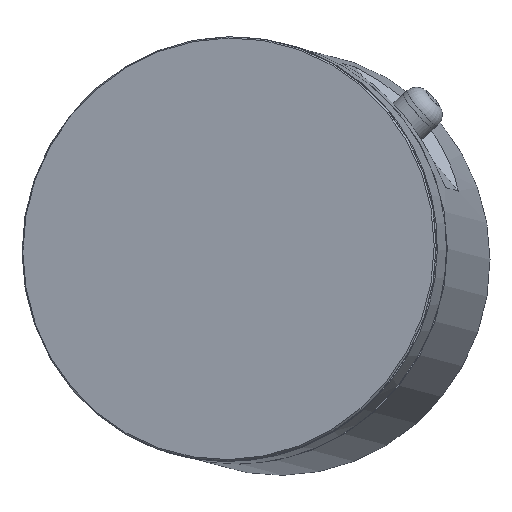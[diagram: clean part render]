
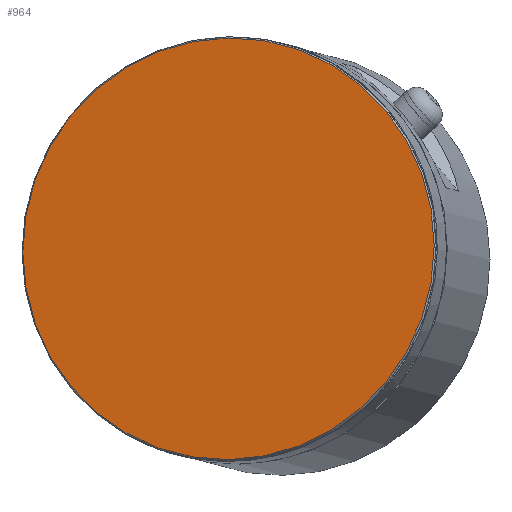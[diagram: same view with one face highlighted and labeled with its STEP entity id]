
A CAD part, front view. The second image highlights one B-rep face of the part: STEP entity #964.
In plain terms, the highlighted planar face has unit normal (-0.227, -0.972, 0.06).
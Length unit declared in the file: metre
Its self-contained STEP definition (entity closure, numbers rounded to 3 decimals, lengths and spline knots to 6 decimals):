
#12=PLANE('',#1308);
#93=CIRCLE('',#1209,0.0447);
#296=ORIENTED_EDGE('',*,*,#385,.F.);
#385=EDGE_CURVE('NONE',#484,#484,#93,.T.);
#484=VERTEX_POINT('',#1982);
#680=EDGE_LOOP('',(#296));
#826=FACE_BOUND('',#680,.T.);
#964=ADVANCED_FACE('NONE',(#826),#12,.F.);
#1209=AXIS2_PLACEMENT_3D('',#1981,#1354,#1355);
#1308=AXIS2_PLACEMENT_3D('',#2143,#1554,#1555);
#1354=DIRECTION('',(0.227,0.972,-0.06));
#1355=DIRECTION('',(-0.745,0.134,-0.654));
#1554=DIRECTION('',(0.227,0.972,-0.06));
#1555=DIRECTION('',(-0.745,0.134,-0.654));
#1981=CARTESIAN_POINT('',(0.225031,0.435237,0.68178));
#1982=CARTESIAN_POINT('',(0.191737,0.441232,0.652564));
#2143=CARTESIAN_POINT('',(0.266527,0.426394,0.69585));
